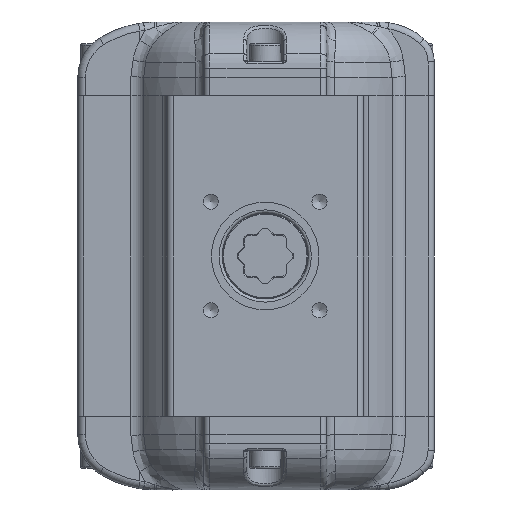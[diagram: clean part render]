
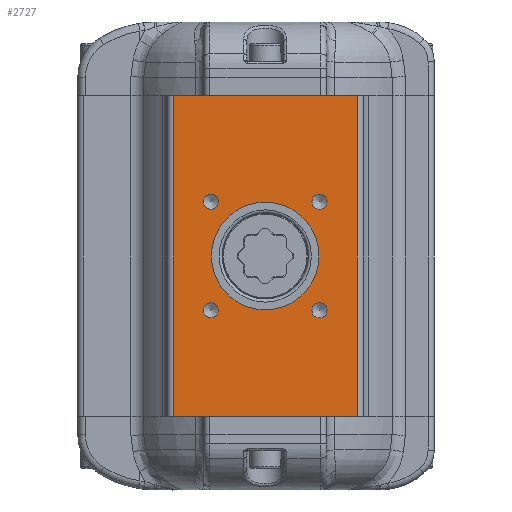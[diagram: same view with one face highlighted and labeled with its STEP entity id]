
A CAD part, front view. The second image highlights one B-rep face of the part: STEP entity #2727.
In plain terms, the highlighted planar face has unit normal (0, -1, 0).
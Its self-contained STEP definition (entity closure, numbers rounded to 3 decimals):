
#2614=CARTESIAN_POINT('',(30.0,-56.,-52.15));
#2615=VERTEX_POINT('',#2614);
#2624=CARTESIAN_POINT('',(30.0,-56.,52.15));
#2625=VERTEX_POINT('',#2624);
#2633=CARTESIAN_POINT('',(30.0,-56.,52.15));
#2634=DIRECTION('',(0.0,0.0,-1.0));
#2635=VECTOR('',#2634,104.3);
#2636=LINE('',#2633,#2635);
#2637=EDGE_CURVE('',#2625,#2615,#2636,.T.);
#2642=CARTESIAN_POINT('',(-32.0,-56.,0.));
#2643=DIRECTION('',(0.0,-1.0,0.0));
#2644=DIRECTION('',(0.0,0.0,1.0));
#2645=AXIS2_PLACEMENT_3D('',#2642,#2643,#2644);
#2646=PLANE('',#2645);
#2647=CARTESIAN_POINT('',(-30.0,-56.,-52.15));
#2648=VERTEX_POINT('',#2647);
#2649=CARTESIAN_POINT('',(-30.0,-56.,52.15));
#2650=VERTEX_POINT('',#2649);
#2651=CARTESIAN_POINT('',(-30.0,-56.,-52.15));
#2652=DIRECTION('',(0.0,0.0,1.0));
#2653=VECTOR('',#2652,104.3);
#2654=LINE('',#2651,#2653);
#2655=EDGE_CURVE('',#2648,#2650,#2654,.T.);
#2656=ORIENTED_EDGE('',*,*,#2655,.F.);
#2657=CARTESIAN_POINT('',(-30.0,-56.,-52.15));
#2658=DIRECTION('',(1.0,0.0,0.0));
#2659=VECTOR('',#2658,60.0);
#2660=LINE('',#2657,#2659);
#2661=EDGE_CURVE('',#2648,#2615,#2660,.T.);
#2662=ORIENTED_EDGE('',*,*,#2661,.T.);
#2663=ORIENTED_EDGE('',*,*,#2637,.F.);
#2664=CARTESIAN_POINT('',(30.0,-56.,52.15));
#2665=DIRECTION('',(-1.0,0.0,0.0));
#2666=VECTOR('',#2665,60.0);
#2667=LINE('',#2664,#2666);
#2668=EDGE_CURVE('',#2625,#2650,#2667,.T.);
#2669=ORIENTED_EDGE('',*,*,#2668,.T.);
#2670=EDGE_LOOP('',(#2656,#2662,#2663,#2669));
#2671=FACE_OUTER_BOUND('',#2670,.T.);
#2672=CARTESIAN_POINT('',(15.219,-56.,-17.678));
#2673=VERTEX_POINT('',#2672);
#2674=CARTESIAN_POINT('',(17.678,-56.,-17.678));
#2675=DIRECTION('',(0.0,1.0,0.0));
#2676=DIRECTION('',(-1.0,0.0,0.0));
#2677=AXIS2_PLACEMENT_3D('',#2674,#2675,#2676);
#2678=CIRCLE('',#2677,2.459);
#2679=EDGE_CURVE('',#2673,#2673,#2678,.T.);
#2680=ORIENTED_EDGE('',*,*,#2679,.T.);
#2681=EDGE_LOOP('',(#2680));
#2682=FACE_BOUND('',#2681,.T.);
#2683=CARTESIAN_POINT('',(-20.136,-56.,17.678));
#2684=VERTEX_POINT('',#2683);
#2685=CARTESIAN_POINT('',(-17.678,-56.,17.678));
#2686=DIRECTION('',(0.0,1.0,0.0));
#2687=DIRECTION('',(-1.0,0.0,0.0));
#2688=AXIS2_PLACEMENT_3D('',#2685,#2686,#2687);
#2689=CIRCLE('',#2688,2.459);
#2690=EDGE_CURVE('',#2684,#2684,#2689,.T.);
#2691=ORIENTED_EDGE('',*,*,#2690,.T.);
#2692=EDGE_LOOP('',(#2691));
#2693=FACE_BOUND('',#2692,.T.);
#2694=CARTESIAN_POINT('',(15.219,-56.,17.678));
#2695=VERTEX_POINT('',#2694);
#2696=CARTESIAN_POINT('',(17.678,-56.,17.678));
#2697=DIRECTION('',(0.0,1.0,0.0));
#2698=DIRECTION('',(-1.0,0.0,0.0));
#2699=AXIS2_PLACEMENT_3D('',#2696,#2697,#2698);
#2700=CIRCLE('',#2699,2.459);
#2701=EDGE_CURVE('',#2695,#2695,#2700,.T.);
#2702=ORIENTED_EDGE('',*,*,#2701,.T.);
#2703=EDGE_LOOP('',(#2702));
#2704=FACE_BOUND('',#2703,.T.);
#2705=CARTESIAN_POINT('',(-20.136,-56.,-17.678));
#2706=VERTEX_POINT('',#2705);
#2707=CARTESIAN_POINT('',(-17.678,-56.,-17.678));
#2708=DIRECTION('',(0.0,1.0,0.0));
#2709=DIRECTION('',(-1.0,0.0,0.0));
#2710=AXIS2_PLACEMENT_3D('',#2707,#2708,#2709);
#2711=CIRCLE('',#2710,2.459);
#2712=EDGE_CURVE('',#2706,#2706,#2711,.T.);
#2713=ORIENTED_EDGE('',*,*,#2712,.T.);
#2714=EDGE_LOOP('',(#2713));
#2715=FACE_BOUND('',#2714,.T.);
#2716=CARTESIAN_POINT('',(0.,-56.,-17.5));
#2717=VERTEX_POINT('',#2716);
#2718=CARTESIAN_POINT('',(0.,-56.,0.));
#2719=DIRECTION('',(0.0,1.0,0.0));
#2720=DIRECTION('',(0.0,0.0,-1.0));
#2721=AXIS2_PLACEMENT_3D('',#2718,#2719,#2720);
#2722=CIRCLE('',#2721,17.5);
#2723=EDGE_CURVE('',#2717,#2717,#2722,.T.);
#2724=ORIENTED_EDGE('',*,*,#2723,.T.);
#2725=EDGE_LOOP('',(#2724));
#2726=FACE_BOUND('',#2725,.T.);
#2727=ADVANCED_FACE('',(#2671,#2682,#2693,#2704,#2715,#2726),#2646,.T.);
